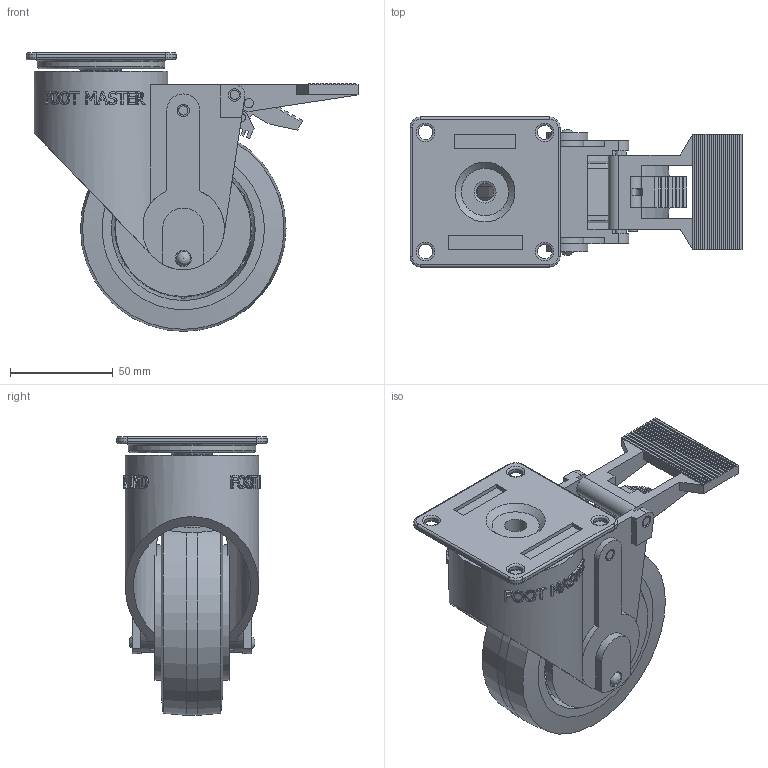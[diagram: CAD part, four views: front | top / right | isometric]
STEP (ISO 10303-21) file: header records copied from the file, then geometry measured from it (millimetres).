
FILE_DESCRIPTION((''),'2;1');
FILE_NAME('C:\Documents and Settings\Administrator\바탕 화면\2011년도\도면 및 견적서 발송\지덕 전체도면\3D도면\GDC\GDC-100-BSF\GDC-100-BSF.stp','2012-02-03T09:19:37',('Administrator'),(''),'Autodesk Inventor 2009','Autodesk Inventor 2009','');
FILE_SCHEMA(('AUTOMOTIVE_DESIGN { 1 0 10303 214 1 1 1 1 }'));
Length unit declared in the file: millimetre
Products named in the file (1): GDC-100-BSF
Bounding box: 161.5 x 73 x 135.6 mm (x, y, z)
Volume: 346588.4 mm3; surface area: 126065.8 mm2
Topology: 2 solids, 34 shells, 1092 faces, 2979 edges, 1916 vertices
Faces by surface type: plane 654, cylinder 172, bspline 146, torus 51, cone 37, sphere 32
Full cylindrical faces by diameter (mm): 3 x7, 4 x2, 4.5 x4, 6 x4, 7 x4, 8 x5, 8.4 x1, 10.7 x1, 12 x4, 13 x6, 15.3 x2, 18 x4, 19.8 x2, 20 x3, 25 x1, 27 x1, 29 x1, 39 x2, 39.4 x1, 41 x1, 46 x2, 50 x2, 62 x3, 65 x1, 66 x2, 100 x1
Entity records: 50765 total; most frequent: CARTESIAN_POINT 23997, ORIENTED_EDGE 5648, DIRECTION 5388, EDGE_CURVE 2824, AXIS2_PLACEMENT_3D 1961, VERTEX_POINT 1873, VECTOR 1466, LINE 1466
